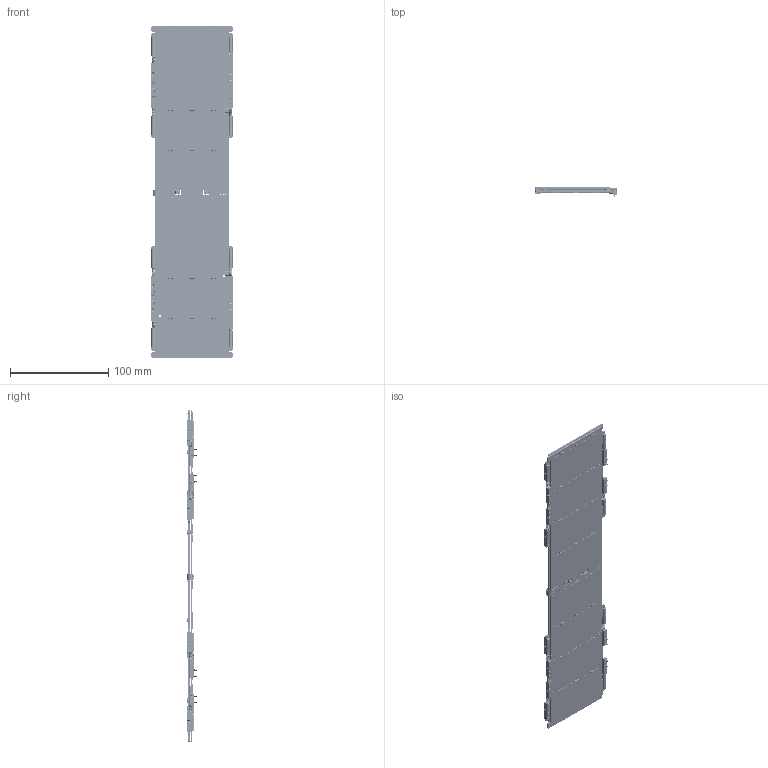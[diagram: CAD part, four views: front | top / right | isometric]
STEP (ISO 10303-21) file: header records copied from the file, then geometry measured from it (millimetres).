
FILE_DESCRIPTION (( 'STEP AP214' ), '1' );
FILE_NAME ('O1 Deployable Panel - Stowed.STEP', '2023-03-24T21:00:41', ( '' ), ( '' ), 'SwSTEP 2.0', 'SolidWorks 2020', '' );
FILE_SCHEMA (( 'AUTOMOTIVE_DESIGN' ));
Products named in the file (1): O1 Deployable Panel - Stowed
Bounding box: 82.55 x 10.25 x 337.82 mm (x, y, z)
Volume: 93682.3 mm3; surface area: 199004.6 mm2
Topology: 1 solids, 180 shells, 8201 faces, 21795 edges, 13628 vertices
Faces by surface type: plane 4006, cylinder 2141, cone 1808, torus 132, bspline 98, sphere 16
Entity records: 306765 total; most frequent: CARTESIAN_POINT 98415, DIRECTION 44585, ORIENTED_EDGE 43430, EDGE_CURVE 21715, AXIS2_PLACEMENT_3D 15406, LINE 13773, VECTOR 13773, VERTEX_POINT 13628
